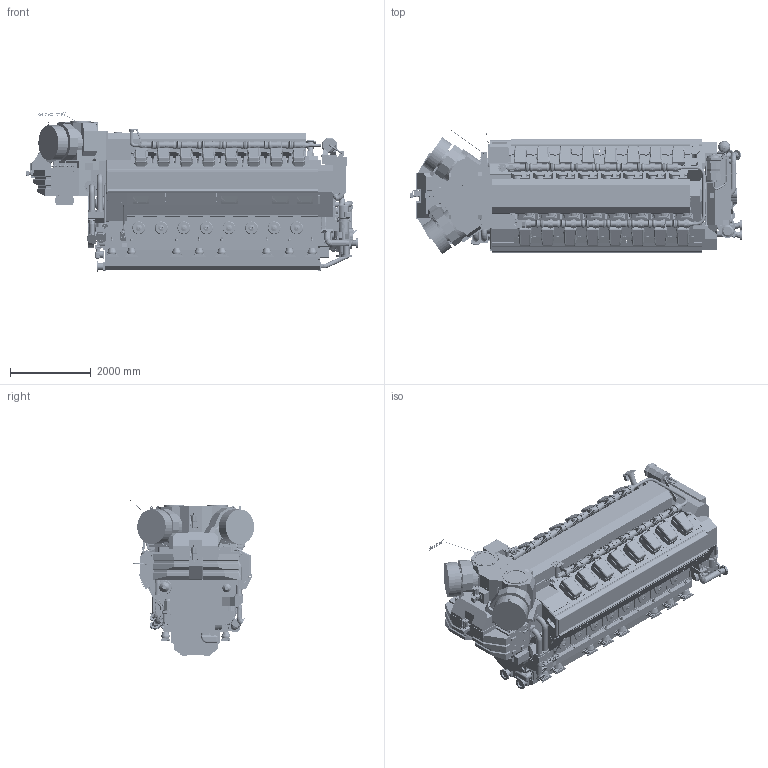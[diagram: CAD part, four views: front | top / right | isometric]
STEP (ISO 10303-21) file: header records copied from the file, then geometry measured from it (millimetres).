
FILE_DESCRIPTION(/* description */ (''),/* implementation_level */ '2;1');
FILE_NAME(/* name */ 'DAAF380232_A.stp',/* time_stamp */ '2022-01-12T14:18:22+02:00',/* author */ (''),/* organization */ (''),/* preprocessor_version */ 'ST-DEVELOPER v16.7',/* originating_system */ 'SIEMENS PLM Software NX 1915',/* authorisation */ '');
FILE_SCHEMA (('AUTOMOTIVE_DESIGN { 1 0 10303 214 3 1 1 1 }'));
Products named in the file (81): 001240134-A_STEEL PLATE; 001240134--_STEEL PLATE; PAAF523057--; PAAF702810--_STUD; 0031B006100-K_ROUND NUT_MODEL; PAAF078535--_COOLING WATER PIPES; PAAF093851--_WATER PIPE; PAAF078609--_HT-WATER SYSTEM; PAAF078635--_LT-WATER SYSTEM; PABA173946--_Nitrogen gas pipe; PAAF238216--_CRANKSHAFT; PAAF247464--_FRAME; PABA039601--_Covers for air ducts Napier NT1-10; 0032A047800-B_FLANGE_MODEL; PAAF074412--_LUBE OIL MODULE; PABA274494--_flywheel; PAAF783084--_WASTE GATE _ BY-PASS; PABA034609--_Cylinder heads and multiducts 16V; PABA034962--_End cover for camshaft B-bank; PABA002426--_Oil mist detector DN150_ Dr Horn DN125; PAAF064590--_COVERS; PABA001817--_Covers for crankcase and camshaft; PABA201394--_Covers top shields; PAAF074394--_PUMP COVER; PAAF295070--_INTERMEDIATE GEAR; PAAF195815--_COVERS; PAAF308706--_CHARGE AIR SYSTEM; PAAF066763--_INSULATING BOX; PAAF078123--_COVER; PABA068010--_Gas feed pipe between banks; PAAF087117--_LEAK FUEL SYSTEM; PABA052426--_Cylinder head covers 16V; PAAF063635--_ENGINE BLOCK; PAAF087083--_LEAK FUEL SYSTEM; PABA039759--_Fastening equipment for charge air cooler; PAAF243367--_GOVERNOR; PAAF243370--_PRELUBRICATING PUMP; PABA066964--_Double wall gas vent system; PAAF308705--_TURBOCHARGER; PAAF087113--_LEAK FUEL SYSTEM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
Assembly tree (192 placements, depth 4):
  DAAF380232_A-Outline drawing
    PABA338023--_3D tag MC
    PABA339558--_W16V34DFC-TCD-DRY
      PAAF087142--_LUBE OIL SYSTEM
      PAAF074480--_DRY SUMP
      PAAF245312--_END COVER
      PAAF093491--_LUBE OIL PIPES
      PAAF087152--_OIL SUCTION PIPE
      PABA068023--_Gas manifold  x16
      PABA336739--_Cover  x8
      PAAF090571--_LUBRICATING OIL PIPES
      PAAF078522--_FUEL PIPES
      PABA134891--_Electrical equipment tor NT1-10_ TCD
      PAAF093826--_WATER PIPE
      PABA068052--_Gas bellows  x14
      PAAF313561--_INSULATION BOX
      PAAF077590--_THERMOSTATIC VALVE  x2
      PAAF078607--_HT-WATER PIPES
      PABA065852--_Gas feed pipe from roof
      PAAF406153--_STARTING AIR PIPE_MODEL
      PABA052452--_Covers for air bottle_ noise reduction
      PAAF221967--_WATER PUMP
      PAAF078708--_ACTUATOR  x2
      PAAF077589--_CONNECTING PIECE
      PAAF087127--_LUBE OIL SYSTEM
      PAAF785461--_COVERS
      PAAF221638--_WATER PUMP
      PAAF245056--_LUBRICATING OIL PUMP
      PABA337764--_Body
      PAAF087128--_OIL PIPE
      PAAF087123--_LEAK FUEL PIPES
      PAAF078077--_TURNING DEVICE
      PAAF304653--_PUMP COVER
      PAAF243353--_LT-WATER PIPE
      PABA002081--_Main cabinet 2nd gen unic
      PABA001563--_Shut-down mechanism
      PAAF166694--_MOTOR
      PAAF313559--_CLEANING DEVICE
      PAAF087113--_LEAK FUEL SYSTEM
      PAAF308705--_TURBOCHARGER
      PABA066964--_Double wall gas vent system
      PAAF243370--_PRELUBRICATING PUMP
      PAAF243367--_GOVERNOR
      PABA039759--_Fastening equipment for charge air cooler
      PAAF087083--_LEAK FUEL SYSTEM
      PAAF063635--_ENGINE BLOCK
      PABA052426--_Cylinder head covers 16V
      PAAF087117--_LEAK FUEL SYSTEM
      PABA068010--_Gas feed pipe between banks
      PAAF078123--_COVER
      PAAF066763--_INSULATING BOX
      PAAF308706--_CHARGE AIR SYSTEM
      PAAF195815--_COVERS
      PAAF295070--_INTERMEDIATE GEAR
      PAAF074394--_PUMP COVER
      PABA201394--_Covers top shields
      PABA001817--_Covers for crankcase and camshaft
      PAAF064590--_COVERS
      PABA002426--_Oil mist detector DN150_ Dr Horn DN125
      PABA034962--_End cover for camshaft B-bank
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Bounding box: 8239.67 x 3081.17 x 3985.01 mm (x, y, z)
Volume: 30773665064.6 mm3; surface area: 380654299.2 mm2
Topology: 541 solids, 705 shells, 22383 faces, 55302 edges, 35399 vertices
Faces by surface type: plane 11223, cylinder 6081, bspline 3027, torus 940, cone 632, extrusion 425, sphere 44, revolution 11
Full cylindrical faces by diameter (mm): 0.107 x1, 3.3 x16, 6 x14, 6.2 x128, 8 x17, 8.5 x1, 8.993 x3, 9.5 x1, 9.685 x1, 10 x28, 11 x21, 11.908 x1, 11.995 x1, 12 x7, 13.2 x4, 14 x64, 14.596 x1, 15 x24, 15.5 x4, 15.7 x4, 16 x13, 16.5 x3, 16.658 x1, 17 x2, 17.5 x132, 17.997 x1, 18 x108, 19 x2, 20 x8, 21.3 x2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
Entity records: 686610 total; most frequent: CARTESIAN_POINT 255291, ORIENTED_EDGE 88204, DIRECTION 83977, EDGE_CURVE 44102, AXIS2_PLACEMENT_3D 29049, VERTEX_POINT 28808, VECTOR 25868, LINE 25611
